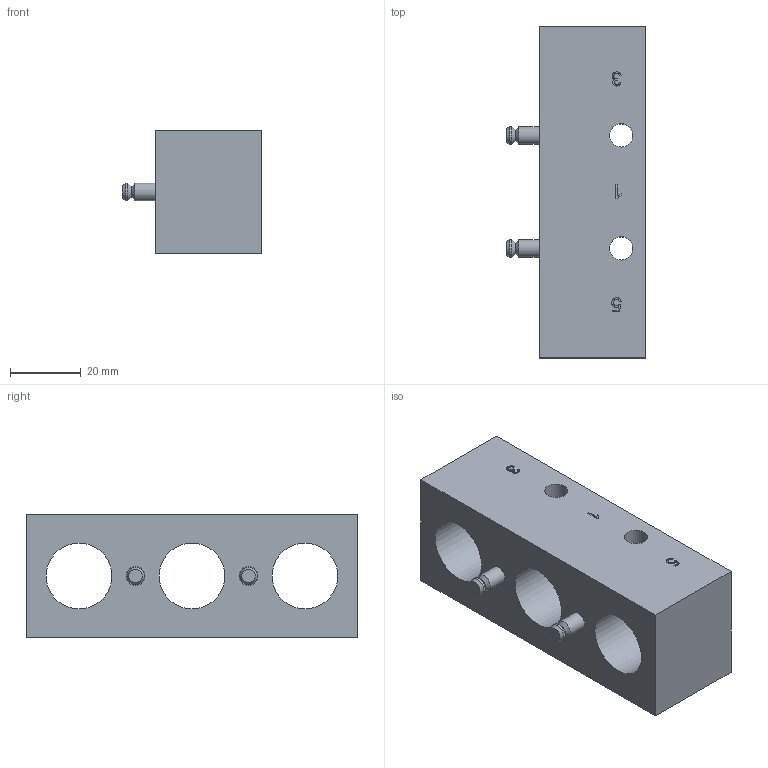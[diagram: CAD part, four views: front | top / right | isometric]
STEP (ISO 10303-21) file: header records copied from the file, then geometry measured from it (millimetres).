
FILE_DESCRIPTION( ( 'Unknown' ), '1' );
FILE_NAME( 'Q:/Solid Edge ST4/STEP/R 5 103 GL.stp', 'Unknown', ( 'Unknown' ), ( 'Unknown' ), 'PSStep 17.0.49', 'Unknown', ' ' );
FILE_SCHEMA( ( 'AUTOMOTIVE_DESIGN { 1 0 10303 214 1 1 1 1 }' ) );
Length unit declared in the file: millimetre
Products named in the file (4): Assem1
Assembly tree (3 placements, depth 2):
  Assem1
    (unnamed)
    (unnamed)
    (unnamed)
Bounding box: 39.55 x 94 x 35 mm (x, y, z)
Surface area: 20268.7 mm2 (no closed solid volume)
Topology: 0 solids, 66 shells, 66 faces, 281 edges, 252 vertices
Faces by surface type: plane 28, cylinder 15, cone 15, extrusion 8
Full cylindrical faces by diameter (mm): 5 x6, 6.6 x2, 18.631 x6
Entity records: 3413 total; most frequent: CARTESIAN_POINT 1132, DIRECTION 416, VERTEX_POINT 242, ORIENTED_EDGE 240, EDGE_CURVE 240, VECTOR 140, AXIS2_PLACEMENT_3D 138, LINE 132
